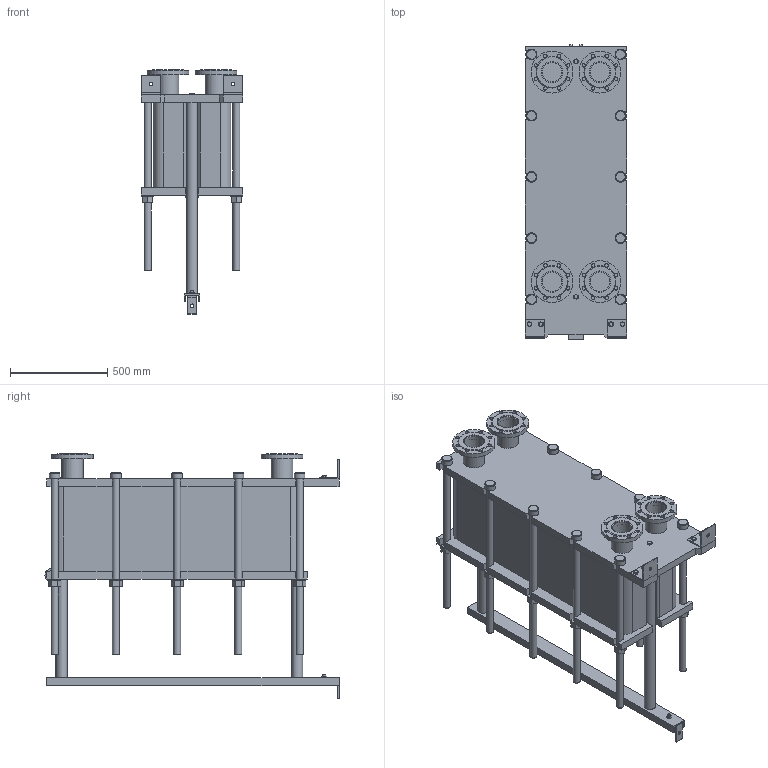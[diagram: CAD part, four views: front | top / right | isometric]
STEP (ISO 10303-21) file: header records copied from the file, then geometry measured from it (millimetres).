
FILE_DESCRIPTION(/* description */ (''),/* implementation_level */ '2;1');
FILE_NAME(/* name */ 'C:\Users\zhuro\Desktop\ENCO\TO\ЭН-04\ЭН-0,5-04-126-1.stp',/* time_stamp */ '2022-06-06T10:56:39+03:00',/* author */ ('zhuro'),/* organization */ (''),/* preprocessor_version */ 'ST-DEVELOPER v18.1',/* originating_system */ 'Autodesk Inventor 2022',/* authorisation */ '');
FILE_SCHEMA (('AUTOMOTIVE_DESIGN { 1 0 10303 214 3 1 1 }'));
Length unit declared in the file: millimetre
Products named in the file (1): ЭН-0,5-04-126-1
Bounding box: 520 x 1510 x 1258 mm (x, y, z)
Volume: 289849433 mm3; surface area: 8927004.4 mm2
Topology: 45 solids, 45 shells, 668 faces, 1611 edges, 1048 vertices
Faces by surface type: plane 457, cylinder 166, cone 39, torus 6
Full cylindrical faces by diameter (mm): 8 x4, 10 x2, 16 x8, 18 x35, 36 x25, 40 x2, 42 x1, 45 x4, 54 x10, 57 x2, 60 x10, 68 x2, 100 x4, 110 x8, 215 x4
Entity records: 23607 total; most frequent: CARTESIAN_POINT 7348, DIRECTION 3371, ORIENTED_EDGE 3142, EDGE_CURVE 1571, AXIS2_PLACEMENT_3D 1199, VERTEX_POINT 1044, LINE 973, VECTOR 973
